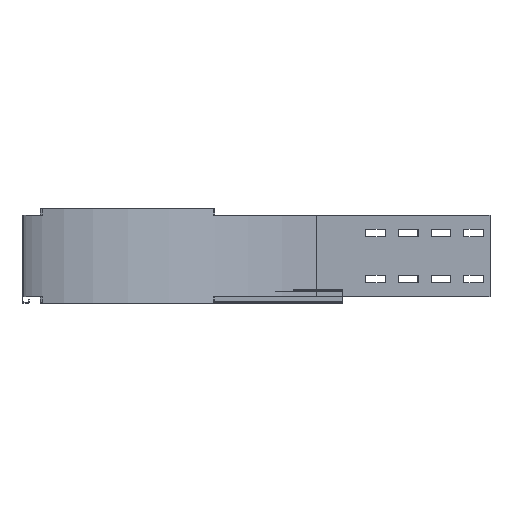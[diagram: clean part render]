
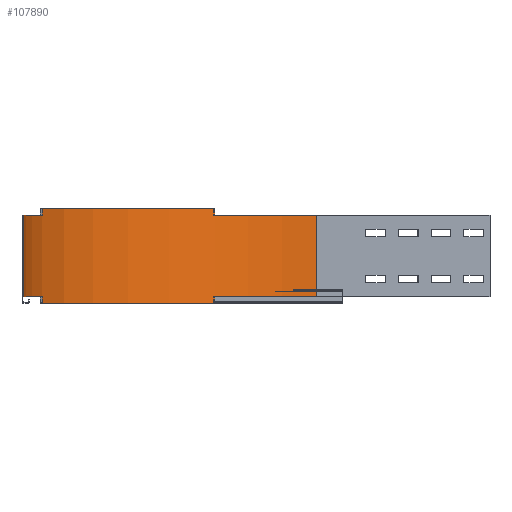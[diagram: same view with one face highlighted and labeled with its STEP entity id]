
A CAD part, left-side view. The second image highlights one B-rep face of the part: STEP entity #107890.
In plain terms, the highlighted cylindrical face has radius 447 mm (diameter 894 mm), a partial arc.
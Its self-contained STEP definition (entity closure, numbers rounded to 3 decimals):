
#85320=CARTESIAN_POINT('',(418.993,-294.263,0.));
#85330=VERTEX_POINT('',#85320);
#85360=CARTESIAN_POINT('',(0.,-450.,0.));
#85370=DIRECTION('',(0.,0.,1.));
#85380=DIRECTION('',(0.937,0.348,0.));
#85390=AXIS2_PLACEMENT_3D('',#85360,#85370,#85380);
#85400=CIRCLE('',#85390,447.);
#85410=CARTESIAN_POINT('',(155.737,-31.007,0.));
#85420=VERTEX_POINT('',#85410);
#85430=EDGE_CURVE('',#85330,#85420,#85400,.T.);
#87400=CARTESIAN_POINT('',(447.,-450.,-10.));
#87410=VERTEX_POINT('',#87400);
#87460=CARTESIAN_POINT('',(0.,-450.,-10.));
#87470=DIRECTION('',(0.,0.,-1.));
#87480=DIRECTION('',(0.937,0.348,0.));
#87490=AXIS2_PLACEMENT_3D('',#87460,#87470,#87480);
#87500=CIRCLE('',#87490,447.);
#87510=CARTESIAN_POINT('',(418.993,-294.263,-10.));
#87520=VERTEX_POINT('',#87510);
#87530=EDGE_CURVE('',#87520,#87410,#87500,.T.);
#87940=CARTESIAN_POINT('',(0.,-450.,-145.));
#87950=DIRECTION('',(0.,0.,1.));
#87960=DIRECTION('',(0.937,0.348,0.));
#87970=AXIS2_PLACEMENT_3D('',#87940,#87950,#87960);
#87980=CIRCLE('',#87970,447.);
#87990=CARTESIAN_POINT('',(418.993,-294.263,-145.));
#88000=VERTEX_POINT('',#87990);
#88010=CARTESIAN_POINT('',(155.737,-31.007,-145.));
#88020=VERTEX_POINT('',#88010);
#88030=EDGE_CURVE('',#88000,#88020,#87980,.T.);
#88360=CARTESIAN_POINT('',(0.,-450.,-135.));
#88370=DIRECTION('',(0.,0.,1.));
#88380=DIRECTION('',(0.348,0.937,0.));
#88390=AXIS2_PLACEMENT_3D('',#88360,#88370,#88380);
#88400=CIRCLE('',#88390,447.);
#88410=CARTESIAN_POINT('',(155.737,-31.007,-135.));
#88420=VERTEX_POINT('',#88410);
#88430=CARTESIAN_POINT('',(0.,-3.,-135.));
#88440=VERTEX_POINT('',#88430);
#88450=EDGE_CURVE('',#88420,#88440,#88400,.T.);
#97710=CARTESIAN_POINT('',(0.,-3.,0.));
#97720=DIRECTION('',(0.,0.,-1.));
#97730=VECTOR('',#97720,1.);
#97740=LINE('',#97710,#97730);
#97750=CARTESIAN_POINT('',(0.,-3.,-10.));
#97760=VERTEX_POINT('',#97750);
#97770=EDGE_CURVE('',#97760,#88440,#97740,.T.);
#100700=CARTESIAN_POINT('',(447.,-450.,-135.));
#100710=VERTEX_POINT('',#100700);
#100740=CARTESIAN_POINT('',(447.,-450.,0.));
#100750=DIRECTION('',(0.,0.,1.));
#100760=VECTOR('',#100750,1.);
#100770=LINE('',#100740,#100760);
#100780=EDGE_CURVE('',#100710,#87410,#100770,.T.);
#105950=CARTESIAN_POINT('',(418.993,-294.263,0.));
#105960=DIRECTION('',(0.,0.,-1.));
#105970=VECTOR('',#105960,1.);
#105980=LINE('',#105950,#105970);
#105990=EDGE_CURVE('',#85330,#87520,#105980,.T.);
#106120=CARTESIAN_POINT('',(155.737,-31.007,-145.));
#106130=DIRECTION('',(0.,0.,1.));
#106140=VECTOR('',#106130,1.);
#106150=LINE('',#106120,#106140);
#106160=EDGE_CURVE('',#88020,#88420,#106150,.T.);
#106300=CARTESIAN_POINT('',(155.737,-31.007,-10.));
#106310=VERTEX_POINT('',#106300);
#106360=CARTESIAN_POINT('',(155.737,-31.007,-10.));
#106370=DIRECTION('',(0.,0.,1.));
#106380=VECTOR('',#106370,1.);
#106390=LINE('',#106360,#106380);
#106400=EDGE_CURVE('',#106310,#85420,#106390,.T.);
#106560=CARTESIAN_POINT('',(418.993,-294.263,-135.));
#106570=VERTEX_POINT('',#106560);
#106600=CARTESIAN_POINT('',(0.,-450.,-135.));
#106610=DIRECTION('',(0.,0.,1.));
#106620=DIRECTION('',(1.,0.,0.));
#106630=AXIS2_PLACEMENT_3D('',#106600,#106610,#106620);
#106640=CIRCLE('',#106630,447.);
#106650=EDGE_CURVE('',#100710,#106570,#106640,.T.);
#107590=CARTESIAN_POINT('',(0.,-450.,-10.));
#107600=DIRECTION('',(0.,0.,1.));
#107610=DIRECTION('',(1.,0.,0.));
#107620=AXIS2_PLACEMENT_3D('',#107590,#107600,#107610);
#107630=CYLINDRICAL_SURFACE('',#107620,447.);
#107640=ORIENTED_EDGE('',*,*,#88450,.F.);
#107650=ORIENTED_EDGE('',*,*,#97770,.T.);
#107660=CARTESIAN_POINT('',(0.,-450.,-10.));
#107670=DIRECTION('',(0.,0.,-1.));
#107680=DIRECTION('',(0.,1.,0.));
#107690=AXIS2_PLACEMENT_3D('',#107660,#107670,#107680);
#107700=CIRCLE('',#107690,447.);
#107710=EDGE_CURVE('',#97760,#106310,#107700,.T.);
#107720=ORIENTED_EDGE('',*,*,#107710,.F.);
#107730=ORIENTED_EDGE('',*,*,#106400,.F.);
#107740=ORIENTED_EDGE('',*,*,#85430,.T.);
#107750=ORIENTED_EDGE('',*,*,#105990,.F.);
#107760=ORIENTED_EDGE('',*,*,#87530,.F.);
#107770=ORIENTED_EDGE('',*,*,#100780,.T.);
#107780=ORIENTED_EDGE('',*,*,#106650,.F.);
#107790=CARTESIAN_POINT('',(418.993,-294.263,-135.));
#107800=DIRECTION('',(0.,0.,-1.));
#107810=VECTOR('',#107800,1.);
#107820=LINE('',#107790,#107810);
#107830=EDGE_CURVE('',#106570,#88000,#107820,.T.);
#107840=ORIENTED_EDGE('',*,*,#107830,.F.);
#107850=ORIENTED_EDGE('',*,*,#88030,.F.);
#107860=ORIENTED_EDGE('',*,*,#106160,.F.);
#107870=EDGE_LOOP('',(#107860,#107850,#107840,#107780,#107770,#107760,
#107750,#107740,#107730,#107720,#107650,#107640));
#107880=FACE_OUTER_BOUND('',#107870,.T.);
#107890=ADVANCED_FACE('',(#107880),#107630,.F.);
